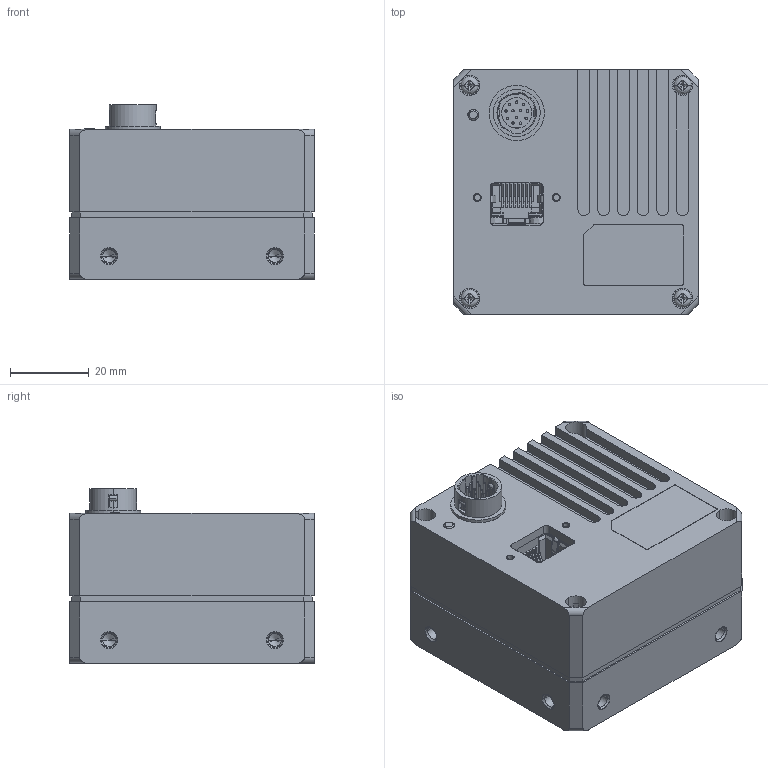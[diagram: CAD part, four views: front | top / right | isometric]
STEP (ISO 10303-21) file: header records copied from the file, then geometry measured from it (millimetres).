
FILE_DESCRIPTION((''),'2;1');
FILE_NAME('4K_0001_ASM','2019-08-17T17:49:25',('wangyijun6'),(''),'CREO PARAMETRIC BY PTC INC, 2017260','CREO PARAMETRIC BY PTC INC, 2017260','');
FILE_SCHEMA(('CONFIG_CONTROL_DESIGN'));
Length unit declared in the file: millimetre
Products named in the file (1): 4K_0001_ASM
Bounding box: 62 x 62 x 44.33 mm (x, y, z)
Volume: 132514.5 mm3; surface area: 26377.2 mm2
Topology: 1 solids, 46 shells, 1289 faces, 3574 edges, 2319 vertices
Faces by surface type: plane 714, cylinder 424, cone 81, bspline 36, torus 26, sphere 8
Entity records: 47248 total; most frequent: CARTESIAN_POINT 14692, ORIENTED_EDGE 6894, DIRECTION 6542, EDGE_CURVE 3513, VERTEX_POINT 2311, AXIS2_PLACEMENT_3D 2212, VECTOR 2118, LINE 2118
